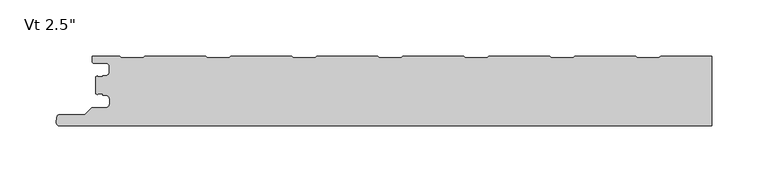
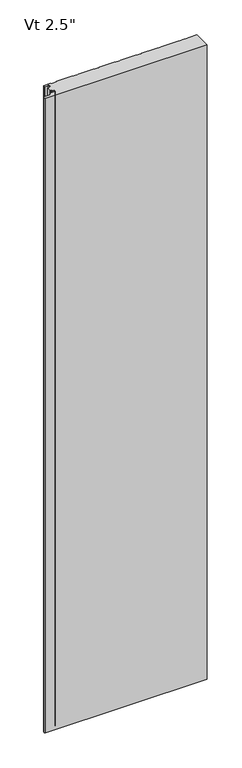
"""IFC4 building model written with IfcOpenShell, lengths in millimetres: plate geometry."""

import ifcopenshell
import ifcopenshell.guid

model = None  # the IFC model being written
_history = None  # IfcOwnerHistory: only IFC2X3 demands one
_inside = {}  # id of a spatial element -> (the spatial element, [elements in it])
_under = {}  # id of a project, library or spatial element -> (it, [spatial elements below it])
_declared = {}  # id of a project -> (the project, [libraries it declares])
_typed = {}  # id of a type object -> (the type object, [elements of that type])
_made_of = {}  # id of a material, layer set ... -> (it, [elements and type objects made of it])


def new_model(schema):
    """Start an empty IFC model of exactly this schema.

    Asked for "IFC4X3", IfcOpenShell would pick the latest addendum, in which some entities
    have other attributes; the version numbers below select the first issue.
    IFC2X3 requires an IfcOwnerHistory on every rooted entity: one is made here for all.
    """
    global model, _history
    if schema == "IFC4X3":
        model = ifcopenshell.file(schema_version=(4, 3, 0, 0))
    else:
        model = ifcopenshell.file(schema=schema)
    _inside.clear()
    _under.clear()
    _declared.clear()
    _typed.clear()
    _made_of.clear()
    _history = None
    if model.schema == "IFC2X3":
        org = make("IfcOrganization", Name="unknown")
        user = make(
            "IfcPersonAndOrganization",
            ThePerson=make("IfcPerson", FamilyName="unknown"),
            TheOrganization=org,
        )
        app = make(
            "IfcApplication",
            ApplicationDeveloper=org,
            Version="unknown",
            ApplicationFullName="unknown",
            ApplicationIdentifier="unknown",
        )
        _history = make(
            "IfcOwnerHistory",
            OwningUser=user,
            OwningApplication=app,
            ChangeAction="ADDED",
            CreationDate=0,
        )
    return model


def make(cls, **values):
    """One entity of the class cls with the attributes given. An attribute that is None is left unset."""
    return model.create_entity(
        cls, **{name: value for name, value in values.items() if value is not None}
    )


def rooted(cls, **values):
    """An entity with a GlobalId (a new one), such as an element, a storey or a relation."""
    return make(cls, GlobalId=ifcopenshell.guid.new(), OwnerHistory=_history, **values)


def si_unit(unit_type, name, prefix=None):
    """IfcSIUnit, for example si_unit("LENGTHUNIT", "METRE", prefix="MILLI")."""
    return make("IfcSIUnit", UnitType=unit_type, Prefix=prefix, Name=name)


def assignment(units):
    """IfcUnitAssignment: the units of a project."""
    return None if units is None else make("IfcUnitAssignment", Units=units)


def point(xyz):
    """IfcCartesianPoint."""
    return None if xyz is None else make("IfcCartesianPoint", Coordinates=xyz)


def direction(xyz):
    """IfcDirection."""
    return None if xyz is None else make("IfcDirection", DirectionRatios=xyz)


def frame(location, z_axis=None, x_axis=None):
    """IfcAxis2Placement3D, a coordinate frame: its origin and axes. An axis left out is left unset."""
    return make(
        "IfcAxis2Placement3D",
        Location=point(location),
        Axis=direction(z_axis),
        RefDirection=direction(x_axis),
    )


def origin():
    """The frame at (0, 0, 0) with its axes left unset."""
    return frame((0.0, 0.0, 0.0))


def place(relative_to, where):
    """IfcLocalPlacement: puts the frame where relative to a parent placement (None: the world)."""
    return make(
        "IfcLocalPlacement", PlacementRelTo=relative_to, RelativePlacement=where
    )


def context(
    kind, dimensions, precision=None, world=None, true_north=None, identifier=None
):
    """IfcGeometricRepresentationContext, for example the 3D "Model" context."""
    return make(
        "IfcGeometricRepresentationContext",
        ContextIdentifier=identifier,
        ContextType=kind,
        CoordinateSpaceDimension=dimensions,
        Precision=precision,
        WorldCoordinateSystem=world,
        TrueNorth=true_north,
    )


def project(units=None, contexts=None):
    """IfcProject with its units and contexts."""
    return rooted(
        "IfcProject",
        Name="project",
        RepresentationContexts=contexts,
        UnitsInContext=assignment(units),
    )


def spatial(cls, under=None, at=None, **own):
    """A site, building, storey or space (cls), placed at a placement, below another one or the project."""
    s = rooted(cls, ObjectPlacement=at, **own)
    if under is not None:
        _under.setdefault(under.id(), (under, []))[1].append(s)
    return s


def polyline(points):
    """IfcPolyline through the points."""
    return make("IfcPolyline", Points=[point(p) for p in points])


def circle_curve(where, radius):
    """IfcCircle in the frame where."""
    return make("IfcCircle", Position=where, Radius=radius)


def shape(context_of_items, identifier, shape_type, items):
    """IfcShapeRepresentation: the items that make up one representation, for example the "Body"."""
    return make(
        "IfcShapeRepresentation",
        ContextOfItems=context_of_items,
        RepresentationIdentifier=identifier,
        RepresentationType=shape_type,
        Items=items,
    )


def source(mapping_origin, context_of_items, identifier, shape_type, items):
    """IfcRepresentationMap: a shape defined once, which mapped items show again and again."""
    return make(
        "IfcRepresentationMap",
        MappingOrigin=mapping_origin,
        MappedRepresentation=shape(context_of_items, identifier, shape_type, items),
    )


def transform(
    local_origin,
    x_axis=None,
    y_axis=None,
    z_axis=None,
    scale=None,
    scale2=None,
    scale3=None,
    uniform=True,
):
    """IfcCartesianTransformationOperator3D, or its non-uniform kind. x_axis, y_axis, z_axis: its Axis1, 2, 3."""
    if uniform:
        return make(
            "IfcCartesianTransformationOperator3D",
            Axis1=direction(x_axis),
            Axis2=direction(y_axis),
            LocalOrigin=point(local_origin),
            Scale=scale,
            Axis3=direction(z_axis),
        )
    return make(
        "IfcCartesianTransformationOperator3DnonUniform",
        Axis1=direction(x_axis),
        Axis2=direction(y_axis),
        LocalOrigin=point(local_origin),
        Scale=scale,
        Axis3=direction(z_axis),
        Scale2=scale2,
        Scale3=scale3,
    )


def mapped(mapping_source, mapping_target):
    """IfcMappedItem: shows the shape of a source again, moved by a transform."""
    return make(
        "IfcMappedItem", MappingSource=mapping_source, MappingTarget=mapping_target
    )


def made_of(thing, what):
    """Note that an element or type object is made of a material, layer set ...; save() writes the relation."""
    if what is not None:
        _made_of.setdefault(what.id(), (what, []))[1].append(thing)
    return thing


def element(
    cls,
    number,
    at=None,
    inside=None,
    cuts=None,
    type_object=None,
    material=None,
    context=None,
    identifier="Body",
    shape_type=None,
    held_by="IfcProductDefinitionShape",
    body=None,
    shapes=None,
    **own,
):
    """One element of the class cls, such as IfcWall. Its Tag is "e" and its number.

    at: its placement. inside: the storey or other place that contains it. cuts: it is an
    opening in that element (IfcRelVoidsElement). A single representation is given by context,
    identifier, shape_type and body (its items); several are given by shapes. held_by: the class
    of the entity that holds the representations. save() writes the other relations.
    """
    e = rooted(cls, Tag="e%d" % number, ObjectPlacement=at, **own)
    if body is not None:
        shapes = [shape(context, identifier, shape_type, body)]
    if shapes is not None:
        e.Representation = make(held_by, Representations=shapes)
    if inside is not None:
        _inside.setdefault(inside.id(), (inside, []))[1].append(e)
    if cuts is not None:
        rooted(
            "IfcRelVoidsElement", RelatingBuildingElement=cuts, RelatedOpeningElement=e
        )
    if type_object is not None:
        _typed.setdefault(type_object.id(), (type_object, []))[1].append(e)
    return made_of(e, material)


def aggregate(whole, parts):
    """IfcRelAggregates: a whole, such as a stair, and the parts it consists of."""
    return rooted("IfcRelAggregates", RelatingObject=whole, RelatedObjects=parts)


def save(model, path):
    """Write the relations noted so far, then the file.

    IfcRelAggregates (storeys below a building ...), IfcRelContainedInSpatialStructure (elements
    in a storey), IfcRelDefinesByType, IfcRelAssociatesMaterial and IfcRelDeclares: one each for
    every whole, place, type object, material and project.
    """
    for whole, parts in _under.values():
        aggregate(whole, parts)
    for where, things in _inside.values():
        rooted(
            "IfcRelContainedInSpatialStructure",
            RelatedElements=things,
            RelatingStructure=where,
        )
    for kind, things in _typed.values():
        rooted("IfcRelDefinesByType", RelatedObjects=things, RelatingType=kind)
    for what, things in _made_of.values():
        rooted("IfcRelAssociatesMaterial", RelatedObjects=things, RelatingMaterial=what)
    for by, libraries in _declared.values():
        rooted("IfcRelDeclares", RelatingContext=by, RelatedDefinitions=libraries)
    model.write(path)


def plane_surface(at):
    """IfcPlane: the flat surface through the origin of the frame at, square to its z axis."""
    return make("IfcPlane", Position=at)


def cylinder_surface(at, radius):
    """IfcCylindricalSurface: all points at the distance radius from the z axis of the frame at."""
    return make("IfcCylindricalSurface", Position=at, Radius=radius)


def revolved_surface(curve, axis_point, axis_direction):
    """IfcSurfaceOfRevolution: the curve turned about the line through axis_point along axis_direction."""
    return make(
        "IfcSurfaceOfRevolution",
        SweptCurve=make("IfcArbitraryOpenProfileDef", ProfileType="CURVE", Curve=curve),
        AxisPosition=make("IfcAxis1Placement", Location=point(axis_point), Axis=direction(axis_direction)),
    )


def advanced_brep(points, edges, surfaces, faces):
    """IfcAdvancedBrep: a solid bounded by faces that lie on surfaces and meet in shared edges.

    An edge is (start, end): straight between two places in points (the first is 0);
    or (start, end, curve); or (start, end, curve, False) where it runs against its curve.
    A face is (place in surfaces, loops), or (place, loops, False) where it looks against
    its surface's normal. A loop lists edges by number (the first is 1), with a minus sign
    where the edge is run from its end to its start. The first loop is the outer one.
    """
    corners = [point(p) for p in points]
    vertices = [make("IfcVertexPoint", VertexGeometry=c) for c in corners]
    made = []
    for start, end, *more in edges:
        made.append(
            make(
                "IfcEdgeCurve",
                EdgeStart=vertices[start],
                EdgeEnd=vertices[end],
                EdgeGeometry=more[0] if more else make("IfcPolyline", Points=[corners[start], corners[end]]),
                SameSense=more[1] if len(more) > 1 else True,
            )
        )
    hull = []
    for where, loops, *sense in faces:
        bounds = []
        for j, loop in enumerate(loops):
            ring = [make("IfcOrientedEdge", EdgeElement=made[abs(k) - 1], Orientation=k > 0) for k in loop]
            bounds.append(
                make(
                    "IfcFaceOuterBound" if j == 0 else "IfcFaceBound",
                    Bound=make("IfcEdgeLoop", EdgeList=ring),
                    Orientation=True,
                )
            )
        hull.append(make("IfcAdvancedFace", Bounds=bounds, FaceSurface=surfaces[where], SameSense=sense[0] if sense else True))
    return make("IfcAdvancedBrep", Outer=make("IfcClosedShell", CfsFaces=hull))


def plate_b0eb5d18(model_context):
    return source(origin(), model_context, "Body", "AdvancedBrep", [
        advanced_brep(
        [(-271.7683, -35.170875, 2400.0), (-270.567176, -34.0014003, 2400.0), (-266.8087826, -34.0014003, 2400.0), (-266.8087826, -35.3998791, 2400.0), (-264.1096715, -35.3998791, 2400.0), (-260.7596762, -38.7498744, 2400.0), (-260.7596762, -43.1498656, 2400.0), (-264.1096715, -46.4998609, 2400.0), (-275.9205606, -46.4998609, 2400.0), (-277.1226383, -46.9977778, 2400.0), (-282.6247094, -52.4998489, 2400.0), (-304.7198391, -52.4998489, 2400.0), (-307.3765707, -54.7184509, 2400.0), (-307.8125697, -59.7002718, 2400.0), (-305.2521175, -62.4945967, 2400.0), (272.7999998, -62.5, 2400.0), (272.7999998, -1.0, 2400.0), (227.5795537, -1.0, 2400.0), (226.1939207, -2.2002307, 2400.0), (206.8187544, -2.2002307, 2400.0), (205.4331215, -1.0, 2400.0), (151.3797061, -1.0, 2400.0), (149.9940731, -2.2002307, 2400.0), (130.6189068, -2.2002307, 2400.0), (129.2332739, -1.0, 2400.0), (75.1798585, -1.0, 2400.0), (73.7942255, -2.2002307, 2400.0), (54.4190592, -2.2002307, 2400.0), (53.0334263, -1.0, 2400.0), (-1.0199891, -1.0, 2400.0), (-2.4056221, -2.2002307, 2400.0), (-21.7807884, -2.2002307, 2400.0), (-23.1664213, -1.0, 2400.0), (-77.2198367, -1.0, 2400.0), (-78.6054697, -2.2002307, 2400.0), (-97.980636, -2.2002307, 2400.0), (-99.3662689, -1.0, 2400.0), (-153.4196843, -1.0, 2400.0), (-154.8053173, -2.2002307, 2400.0), (-174.1804836, -2.2002307, 2400.0), (-175.5661165, -1.0, 2400.0), (-229.6195319, -1.0, 2400.0), (-231.0051649, -2.2002307, 2400.0), (-250.3803312, -2.2002307, 2400.0), (-251.7659738, -0.9999916, 2400.0), (-276.2662504, -0.9999916, 2400.0), (-276.2662504, -5.2315389, 2400.0), (-274.4962562, -7.0015331, 2400.0), (-264.0762777, -7.0015331, 2400.0), (-260.7762818, -10.301529, 2400.0), (-260.7762818, -14.7015202, 2400.0), (-264.0762775, -18.0015159, 2400.0), (-266.7684873, -18.0015159, 2400.0), (-266.7684873, -19.0015105, 2400.0), (-270.768691, -19.0015105, 2400.0), (-271.7686882, -18.0015192, 2400.0), (-272.7999998, -19.0328308, 2400.0), (-272.7999998, -34.1391751, 2400.0), (-271.7683, -35.170875, 0.0), (-272.7999998, -34.1391751, 0.0), (-272.7999998, -19.0328308, 0.0), (-271.7686882, -18.0015192, 0.0), (-270.768691, -19.0015105, 0.0), (-266.7684873, -19.0015105, 0.0), (-266.7684873, -18.0015159, 0.0), (-264.0762775, -18.0015159, 0.0), (-260.7762818, -14.7015202, 0.0), (-260.7762818, -10.301529, 0.0), (-264.0762777, -7.0015331, 0.0), (-274.4962562, -7.0015331, 0.0), (-276.2662504, -5.2315389, 0.0), (-276.2662504, -0.9999916, 0.0), (-251.7659738, -0.9999916, 0.0), (-250.3803312, -2.2002307, 0.0), (-231.0051649, -2.2002307, 0.0), (-229.6195319, -1.0, 0.0), (-175.5661165, -1.0, 0.0), (-174.1804836, -2.2002307, 0.0), (-154.8053173, -2.2002307, 0.0), (-153.4196843, -1.0, 0.0), (-99.3662689, -1.0, 0.0), (-97.980636, -2.2002307, 0.0), (-78.6054697, -2.2002307, 0.0), (-77.2198367, -1.0, 0.0), (-23.1664213, -1.0, 0.0), (-21.7807884, -2.2002307, 0.0), (-2.4056221, -2.2002307, 0.0), (-1.0199891, -1.0, 0.0), (53.0334263, -1.0, 0.0), (54.4190592, -2.2002307, 0.0), (73.7942255, -2.2002307, 0.0), (75.1798585, -1.0, 0.0), (129.2332739, -1.0, 0.0), (130.6189068, -2.2002307, 0.0), (149.9940731, -2.2002307, 0.0), (151.3797061, -1.0, 0.0), (205.4331215, -1.0, 0.0), (206.8187544, -2.2002307, 0.0), (226.1939207, -2.2002307, 0.0), (227.5795537, -1.0, 0.0), (272.7999998, -1.0, 0.0), (272.7999998, -62.5, 0.0), (-305.2521175, -62.5, 0.0), (-307.8125697, -59.7002718, 0.0), (-307.3765707, -54.7184509, 0.0), (-304.7198391, -52.4998489, 0.0), (-282.6247094, -52.4998489, 0.0), (-277.1226383, -46.9977778, 0.0), (-275.9205606, -46.4998609, 0.0), (-264.1096715, -46.4998609, 0.0), (-260.7596762, -43.1498656, 0.0), (-260.7596762, -38.7498744, 0.0), (-264.1096715, -35.3998791, 0.0), (-266.8087826, -35.3998791, 0.0), (-266.8087826, -34.0014003, 0.0), (-270.567176, -34.0014003, 0.0)],
        [
            (0, 1, circle_curve(frame((-270.5686906, -35.2013969, 2400.0), z_axis=(0.0, 0.0, -1.0), x_axis=(-1.0, 0.0, 0.0)), 1.1999976)),
            (1, 2),
            (2, 3),
            (3, 4),
            (4, 5, circle_curve(frame((-264.1096715, -38.7498744, 2400.0), z_axis=(0.0, 0.0, -1.0), x_axis=(-1.0, 0.0, 0.0)), 3.3499953)),
            (5, 6),
            (6, 7, circle_curve(frame((-264.1096715, -43.1498656, 2400.0), z_axis=(0.0, 0.0, -1.0), x_axis=(-1.0, 0.0, 0.0)), 3.3499953)),
            (7, 8),
            (8, 9, circle_curve(frame((-275.9205606, -48.1998555, 2400.0), z_axis=(0.0, 0.0, 1.0), x_axis=(-1.0, 0.0, 0.0)), 1.6999946)),
            (9, 10),
            (10, 11),
            (11, 12, circle_curve(frame((-304.7198391, -55.1998415, 2400.0), z_axis=(0.0, 0.0, 1.0), x_axis=(-1.0, 0.0, 0.0)), 2.6999926)),
            (12, 13),
            (13, 14, circle_curve(frame((-305.2521175, -59.9243575, 2400.0), z_axis=(0.0, 0.0, 1.0), x_axis=(-1.0, 0.0, 0.0)), 2.5702393)),
            (14, 15),
            (15, 16),
            (16, 17),
            (17, 18),
            (18, 19),
            (19, 20),
            (20, 21),
            (21, 22),
            (22, 23),
            (23, 24),
            (24, 25),
            (25, 26),
            (26, 27),
            (27, 28),
            (28, 29),
            (29, 30),
            (30, 31),
            (31, 32),
            (32, 33),
            (33, 34),
            (34, 35),
            (35, 36),
            (36, 37),
            (37, 38),
            (38, 39),
            (39, 40),
            (40, 41),
            (41, 42),
            (42, 43),
            (43, 44),
            (44, 45),
            (45, 46),
            (46, 47, circle_curve(frame((-274.4962562, -5.2315389, 2400.0), z_axis=(0.0, 0.0, 1.0), x_axis=(1.0, 0.0, 0.0)), 1.7699942)),
            (47, 48),
            (48, 49, circle_curve(frame((-264.0762777, -10.301529, 2400.0), z_axis=(0.0, 0.0, -1.0), x_axis=(1.0, 0.0, 0.0)), 3.2999959)),
            (49, 50),
            (50, 51, circle_curve(frame((-264.0762775, -14.7015202, 2400.0), z_axis=(0.0, 0.0, -1.0), x_axis=(1.0, 0.0, 0.0)), 3.2999957)),
            (51, 52),
            (52, 53),
            (53, 54),
            (54, 55, circle_curve(frame((-270.768691, -18.0015133, 2400.0), z_axis=(0.0, 0.0, -1.0), x_axis=(1.0, 0.0, 0.0)), 0.9999972)),
            (55, 56),
            (56, 57),
            (57, 0),
            (58, 59),
            (59, 60),
            (60, 61),
            (61, 62, circle_curve(frame((-270.768691, -18.0015133, 0.0), z_axis=(0.0, 0.0, 1.0), x_axis=(1.0, 0.0, 0.0)), 0.9999972)),
            (62, 63),
            (63, 64),
            (64, 65),
            (65, 66, circle_curve(frame((-264.0762775, -14.7015202, 0.0), z_axis=(0.0, 0.0, 1.0), x_axis=(1.0, 0.0, 0.0)), 3.2999957)),
            (66, 67),
            (67, 68, circle_curve(frame((-264.0762777, -10.301529, 0.0), z_axis=(0.0, 0.0, 1.0), x_axis=(1.0, 0.0, 0.0)), 3.2999959)),
            (68, 69),
            (69, 70, circle_curve(frame((-274.4962562, -5.2315389, 0.0), z_axis=(0.0, 0.0, -1.0), x_axis=(1.0, 0.0, 0.0)), 1.7699942)),
            (70, 71),
            (71, 72),
            (72, 73),
            (73, 74),
            (74, 75),
            (75, 76),
            (76, 77),
            (77, 78),
            (78, 79),
            (79, 80),
            (80, 81),
            (81, 82),
            (82, 83),
            (83, 84),
            (84, 85),
            (85, 86),
            (86, 87),
            (87, 88),
            (88, 89),
            (89, 90),
            (90, 91),
            (91, 92),
            (92, 93),
            (93, 94),
            (94, 95),
            (95, 96),
            (96, 97),
            (97, 98),
            (98, 99),
            (99, 100),
            (100, 101),
            (101, 102),
            (102, 103, circle_curve(frame((-305.2521175, -59.9243575, 0.0), z_axis=(0.0, 0.0, -1.0), x_axis=(-1.0, 0.0, 0.0)), 2.5702393)),
            (103, 104),
            (104, 105, circle_curve(frame((-304.7198391, -55.1998415, 0.0), z_axis=(0.0, 0.0, -1.0), x_axis=(-1.0, 0.0, 0.0)), 2.6999926)),
            (105, 106),
            (106, 107),
            (107, 108, circle_curve(frame((-275.9205606, -48.1998555, 0.0), z_axis=(0.0, 0.0, -1.0), x_axis=(-1.0, 0.0, 0.0)), 1.6999946)),
            (108, 109),
            (109, 110, circle_curve(frame((-264.1096715, -43.1498656, 0.0), z_axis=(0.0, 0.0, 1.0), x_axis=(-1.0, 0.0, 0.0)), 3.3499953)),
            (110, 111),
            (111, 112, circle_curve(frame((-264.1096715, -38.7498744, 0.0), z_axis=(0.0, 0.0, 1.0), x_axis=(-1.0, 0.0, 0.0)), 3.3499953)),
            (112, 113),
            (113, 114),
            (114, 115),
            (115, 58, circle_curve(frame((-270.5686906, -35.2013969, 0.0), z_axis=(0.0, 0.0, 1.0), x_axis=(-1.0, 0.0, 0.0)), 1.1999976)),
            (57, 59),
            (58, 0),
            (56, 60),
            (101, 15),
            (14, 102),
            (13, 103),
            (12, 104),
            (11, 105),
            (10, 106),
            (9, 107),
            (8, 108),
            (7, 109),
            (6, 110),
            (5, 111),
            (4, 112),
            (3, 113),
            (2, 114),
            (1, 115),
            (55, 61),
            (54, 62),
            (53, 63),
            (52, 64),
            (51, 65),
            (50, 66),
            (49, 67),
            (48, 68),
            (47, 69),
            (46, 70),
            (45, 71),
            (44, 72),
            (100, 16),
            (43, 73),
            (42, 74),
            (41, 75),
            (40, 76),
            (39, 77),
            (38, 78),
            (37, 79),
            (36, 80),
            (35, 81),
            (34, 82),
            (33, 83),
            (32, 84),
            (31, 85),
            (30, 86),
            (29, 87),
            (28, 88),
            (27, 89),
            (26, 90),
            (25, 91),
            (24, 92),
            (23, 93),
            (22, 94),
            (21, 95),
            (20, 96),
            (19, 97),
            (18, 98),
            (17, 99),
        ],
        [
            plane_surface(frame((184.4000002, -62.5, 2400.0), z_axis=(0.0, 0.0, 1.0), x_axis=(0.0, -1.0, 0.0))),
            plane_surface(frame((184.4000002, -62.5, 0.0), z_axis=(0.0, 0.0, -1.0), x_axis=(0.0, -1.0, 0.0))),
            plane_surface(frame((-271.7683, -35.170875, 2400.0), z_axis=(-0.707106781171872, -0.7071067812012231, 0.0), x_axis=(0.0, 0.0, -1.0))),
            plane_surface(frame((-272.7999998, -34.1391751, 2400.0), z_axis=(-1.0, 0.0, 0.0), x_axis=(0.0, 0.0, -1.0))),
            plane_surface(frame((593.1156221, -62.5, 2400.0), z_axis=(0.0, -1.0, 0.0), x_axis=(0.0, 0.0, -1.0))),
            cylinder_surface(frame((-305.2521175, -59.9243575, 2400.0), z_axis=(0.0, 0.0, 1.0), x_axis=(-1.0, 0.0, 0.0)), 2.5702393),
            plane_surface(frame((-307.8125697, -59.7002718, 2400.0), z_axis=(-0.9961921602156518, 0.08718474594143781, 0.0), x_axis=(0.0, 0.0, -1.0))),
            cylinder_surface(frame((-304.7198391, -55.1998415, 2400.0), z_axis=(0.0, 0.0, 1.0), x_axis=(-1.0, 0.0, 0.0)), 2.6999926),
            plane_surface(frame((-304.7198391, -52.4998489, 2400.0), z_axis=(0.0, 1.0, 0.0), x_axis=(0.0, 0.0, -1.0))),
            plane_surface(frame((-282.6247094, -52.4998489, 2400.0), z_axis=(-0.707106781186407, 0.7071067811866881, 0.0), x_axis=(0.0, 0.0, -1.0))),
            cylinder_surface(frame((-275.9205606, -48.1998555, 2400.0), z_axis=(0.0, 0.0, 1.0), x_axis=(-1.0, 0.0, 0.0)), 1.6999946),
            plane_surface(frame((-275.9205606, -46.4998609, 2400.0), z_axis=(0.0, 1.0, 0.0), x_axis=(0.0, 0.0, -1.0))),
            revolved_surface(polyline([(-267.4596668, -43.1498656, 0.0), (-267.4596668, -43.1498656, 2400.0)]), (-264.1096715, -43.1498656, 2400.0), (0.0, 0.0, -1.0)),
            plane_surface(frame((-260.7596762, -43.1498656, 2400.0), z_axis=(-1.0, 0.0, 0.0), x_axis=(0.0, 0.0, -1.0))),
            revolved_surface(polyline([(-267.4596668, -38.7498744, 0.0), (-267.4596668, -38.7498744, 2400.0)]), (-264.1096715, -38.7498744, 2400.0), (0.0, 0.0, -1.0)),
            plane_surface(frame((-264.1096715, -35.3998791, 2400.0), z_axis=(0.0, -1.0, 0.0), x_axis=(0.0, 0.0, -1.0))),
            plane_surface(frame((-266.8087826, -35.3998791, 2400.0), z_axis=(-1.0, 0.0, 0.0), x_axis=(0.0, 0.0, -1.0))),
            plane_surface(frame((-266.8087826, -34.0014003, 2400.0), z_axis=(0.0, -1.0, 0.0), x_axis=(0.0, 0.0, -1.0))),
            revolved_surface(polyline([(-271.76868820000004, -35.2013969, 0.0), (-271.76868820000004, -35.2013969, 2400.0)]), (-270.5686906, -35.2013969, 2400.0), (0.0, 0.0, -1.0)),
            plane_surface(frame((-272.7999998, -19.0328308, 2400.0), z_axis=(-0.7071067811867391, 0.707106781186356, 0.0), x_axis=(0.0, 0.0, -1.0))),
            revolved_surface(polyline([(-269.7686938, -18.0015133, 0.0), (-269.7686938, -18.0015133, 2400.0)]), (-270.768691, -18.0015133, 2400.0), (0.0, 0.0, -1.0)),
            plane_surface(frame((-270.768691, -19.0015105, 2400.0), z_axis=(0.0, 1.0, 0.0), x_axis=(0.0, 0.0, -1.0))),
            plane_surface(frame((-266.7684873, -19.0015105, 2400.0), z_axis=(-1.0, 0.0, 0.0), x_axis=(0.0, 0.0, -1.0))),
            plane_surface(frame((-266.7684873, -18.0015159, 2400.0), z_axis=(0.0, 1.0, 0.0), x_axis=(0.0, 0.0, -1.0))),
            revolved_surface(polyline([(-260.7762818, -14.7015202, 0.0), (-260.7762818, -14.7015202, 2400.0)]), (-264.0762775, -14.7015202, 2400.0), (0.0, 0.0, -1.0)),
            plane_surface(frame((-260.7762818, -14.7015202, 2400.0), z_axis=(-1.0, 0.0, 0.0), x_axis=(0.0, 0.0, -1.0))),
            revolved_surface(polyline([(-260.7762818, -10.301529, 0.0), (-260.7762818, -10.301529, 2400.0)]), (-264.0762777, -10.301529, 2400.0), (0.0, 0.0, -1.0)),
            plane_surface(frame((-264.0762777, -7.0015331, 2400.0), z_axis=(0.0, -1.0, 0.0), x_axis=(0.0, 0.0, -1.0))),
            cylinder_surface(frame((-274.4962562, -5.2315389, 2400.0), z_axis=(0.0, 0.0, 1.0), x_axis=(1.0, 0.0, 0.0)), 1.7699942),
            plane_surface(frame((-276.2662504, -5.2315389, 2400.0), z_axis=(-1.0, 0.0, 0.0), x_axis=(0.0, 0.0, -1.0))),
            plane_surface(frame((-276.2662504, -0.9999916, 2400.0), z_axis=(0.0, 1.0, 0.0), x_axis=(0.0, 0.0, -1.0))),
            plane_surface(frame((272.7999998, -73.5, 2400.0), z_axis=(1.0, 0.0, 0.0), x_axis=(0.0, 0.0, -1.0))),
            plane_surface(frame((-251.7659738, -0.9999916, 2400.0), z_axis=(0.6547276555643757, 0.7558648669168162, 0.0), x_axis=(0.0, 0.0, -1.0))),
            plane_surface(frame((-250.3803312, -2.2002307, 2400.0), z_axis=(0.0, 1.0, 0.0), x_axis=(0.0, 0.0, -1.0))),
            plane_surface(frame((-231.0051649, -2.2002307, 2400.0), z_axis=(-0.6547276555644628, 0.7558648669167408, 0.0), x_axis=(0.0, 0.0, -1.0))),
            plane_surface(frame((-229.6195319, -1.0, 2400.0), z_axis=(0.0, 1.0, 0.0), x_axis=(0.0, 0.0, -1.0))),
            plane_surface(frame((-175.5661165, -1.0, 2400.0), z_axis=(0.6547276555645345, 0.7558648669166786, 0.0), x_axis=(0.0, 0.0, -1.0))),
            plane_surface(frame((-174.1804836, -2.2002307, 2400.0), z_axis=(0.0, 1.0, 0.0), x_axis=(0.0, 0.0, -1.0))),
            plane_surface(frame((-154.8053173, -2.2002307, 2400.0), z_axis=(-0.654727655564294, 0.755864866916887, 0.0), x_axis=(0.0, 0.0, -1.0))),
            plane_surface(frame((-153.4196843, -1.0, 2400.0), z_axis=(0.0, 1.0, 0.0), x_axis=(0.0, 0.0, -1.0))),
            plane_surface(frame((-99.3662689, -1.0, 2400.0), z_axis=(0.6547276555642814, 0.7558648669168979, 0.0), x_axis=(0.0, 0.0, -1.0))),
            plane_surface(frame((-97.980636, -2.2002307, 2400.0), z_axis=(0.0, 1.0, 0.0), x_axis=(0.0, 0.0, -1.0))),
            plane_surface(frame((-78.6054697, -2.2002307, 2400.0), z_axis=(-0.6547276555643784, 0.7558648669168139, 0.0), x_axis=(0.0, 0.0, -1.0))),
            plane_surface(frame((-77.2198367, -1.0, 2400.0), z_axis=(0.0, 1.0, 0.0), x_axis=(0.0, 0.0, -1.0))),
            plane_surface(frame((-23.1664213, -1.0, 2400.0), z_axis=(0.6547276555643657, 0.7558648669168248, 0.0), x_axis=(0.0, 0.0, -1.0))),
            plane_surface(frame((-21.7807884, -2.2002307, 2400.0), z_axis=(0.0, 1.0, 0.0), x_axis=(0.0, 0.0, -1.0))),
            plane_surface(frame((-2.4056221, -2.2002307, 2400.0), z_axis=(-0.6547276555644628, 0.7558648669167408, 0.0), x_axis=(0.0, 0.0, -1.0))),
            plane_surface(frame((-1.0199891, -1.0, 2400.0), z_axis=(0.0, 1.0, 0.0), x_axis=(0.0, 0.0, -1.0))),
            plane_surface(frame((53.0334263, -1.0, 2400.0), z_axis=(0.6547276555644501, 0.7558648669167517, 0.0), x_axis=(0.0, 0.0, -1.0))),
            plane_surface(frame((54.4190592, -2.2002307, 2400.0), z_axis=(0.0, 1.0, 0.0), x_axis=(0.0, 0.0, -1.0))),
            plane_surface(frame((73.7942255, -2.2002307, 2400.0), z_axis=(-0.6547276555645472, 0.7558648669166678, 0.0), x_axis=(0.0, 0.0, -1.0))),
            plane_surface(frame((75.1798585, -1.0, 2400.0), z_axis=(0.0, 1.0, 0.0), x_axis=(0.0, 0.0, -1.0))),
            plane_surface(frame((129.2332739, -1.0, 2400.0), z_axis=(0.6547276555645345, 0.7558648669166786, 0.0), x_axis=(0.0, 0.0, -1.0))),
            plane_surface(frame((130.6189068, -2.2002307, 2400.0), z_axis=(0.0, 1.0, 0.0), x_axis=(0.0, 0.0, -1.0))),
            plane_surface(frame((149.9940731, -2.2002307, 2400.0), z_axis=(-0.6547276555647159, 0.7558648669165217, 0.0), x_axis=(0.0, 0.0, -1.0))),
            plane_surface(frame((151.3797061, -1.0, 2400.0), z_axis=(0.0, 1.0, 0.0), x_axis=(0.0, 0.0, -1.0))),
            plane_surface(frame((205.4331215, -1.0, 2400.0), z_axis=(0.6547276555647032, 0.7558648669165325, 0.0), x_axis=(0.0, 0.0, -1.0))),
            plane_surface(frame((206.8187544, -2.2002307, 2400.0), z_axis=(0.0, 1.0, 0.0), x_axis=(0.0, 0.0, -1.0))),
            plane_surface(frame((226.1939207, -2.2002307, 2400.0), z_axis=(-0.6547276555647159, 0.7558648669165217, 0.0), x_axis=(0.0, 0.0, -1.0))),
            plane_surface(frame((227.5795537, -1.0, 2400.0), z_axis=(0.0, 1.0, 0.0), x_axis=(0.0, 0.0, -1.0))),
        ],
        [
            (0, [[1, 2, 3, 4, 5, 6, 7, 8, 9, 10, 11, 12, 13, 14, 15, 16, 17, 18, 19, 20, 21, 22, 23, 24, 25, 26, 27, 28, 29, 30, 31, 32, 33, 34, 35, 36, 37, 38, 39, 40, 41, 42, 43, 44, 45, 46, 47, 48, 49, 50, 51, 52, 53, 54, 55, 56, 57, 58]]),
            (1, [[59, 60, 61, 62, 63, 64, 65, 66, 67, 68, 69, 70, 71, 72, 73, 74, 75, 76, 77, 78, 79, 80, 81, 82, 83, 84, 85, 86, 87, 88, 89, 90, 91, 92, 93, 94, 95, 96, 97, 98, 99, 100, 101, 102, 103, 104, 105, 106, 107, 108, 109, 110, 111, 112, 113, 114, 115, 116]]),
            (2, [[117, -59, 118, -58]]),
            (3, [[-57, 119, -60, -117]]),
            (4, [[-102, 120, -15, 121]]),
            (5, [[122, -103, -121, -14]]),
            (6, [[123, -104, -122, -13]]),
            (7, [[124, -105, -123, -12]]),
            (8, [[125, -106, -124, -11]]),
            (9, [[126, -107, -125, -10]]),
            (10, [[127, -108, -126, -9]]),
            (11, [[128, -109, -127, -8]]),
            (12, [[129, -110, -128, -7]]),
            (13, [[130, -111, -129, -6]]),
            (14, [[131, -112, -130, -5]]),
            (15, [[132, -113, -131, -4]]),
            (16, [[133, -114, -132, -3]]),
            (17, [[134, -115, -133, -2]]),
            (18, [[-118, -116, -134, -1]]),
            (19, [[135, -61, -119, -56]]),
            (20, [[136, -62, -135, -55]]),
            (21, [[137, -63, -136, -54]]),
            (22, [[138, -64, -137, -53]]),
            (23, [[139, -65, -138, -52]]),
            (24, [[140, -66, -139, -51]]),
            (25, [[141, -67, -140, -50]]),
            (26, [[142, -68, -141, -49]]),
            (27, [[143, -69, -142, -48]]),
            (28, [[144, -70, -143, -47]]),
            (29, [[145, -71, -144, -46]]),
            (30, [[146, -72, -145, -45]]),
            (31, [[-120, -101, 147, -16]]),
            (32, [[148, -73, -146, -44]]),
            (33, [[149, -74, -148, -43]]),
            (34, [[150, -75, -149, -42]]),
            (35, [[151, -76, -150, -41]]),
            (36, [[152, -77, -151, -40]]),
            (37, [[153, -78, -152, -39]]),
            (38, [[154, -79, -153, -38]]),
            (39, [[155, -80, -154, -37]]),
            (40, [[156, -81, -155, -36]]),
            (41, [[157, -82, -156, -35]]),
            (42, [[158, -83, -157, -34]]),
            (43, [[159, -84, -158, -33]]),
            (44, [[160, -85, -159, -32]]),
            (45, [[161, -86, -160, -31]]),
            (46, [[162, -87, -161, -30]]),
            (47, [[163, -88, -162, -29]]),
            (48, [[164, -89, -163, -28]]),
            (49, [[165, -90, -164, -27]]),
            (50, [[166, -91, -165, -26]]),
            (51, [[167, -92, -166, -25]]),
            (52, [[168, -93, -167, -24]]),
            (53, [[169, -94, -168, -23]]),
            (54, [[170, -95, -169, -22]]),
            (55, [[171, -96, -170, -21]]),
            (56, [[172, -97, -171, -20]]),
            (57, [[173, -98, -172, -19]]),
            (58, [[174, -99, -173, -18]]),
            (59, [[-17, -147, -100, -174]]),
        ],
    ),
    ])


if __name__ == "__main__":
    model = new_model("IFC4")
    model_context = context("Model", 3, world=origin())
    ifc_project = project(units=[si_unit("LENGTHUNIT", "METRE", prefix="MILLI")], contexts=[model_context])
    site = spatial("IfcSite", under=ifc_project)
    building = spatial("IfcBuilding", under=site)
    placement = place(None, origin())
    plate_shape = plate_b0eb5d18(model_context)
    element("IfcPlate", 1, ObjectType="KIP-36-Karrier-KP-R19-CP-Vt-FL3-8in_SL : Vt 2.5\"", at=placement, inside=building, context=model_context, shape_type="MappedRepresentation", body=[
        mapped(plate_shape, transform((0.0, 0.0, 0.0), x_axis=(1.0, 0.0, 0.0), y_axis=(0.0, 1.0, 0.0), z_axis=(0.0, 0.0, 1.0))),
    ])
    save(model, "model.ifc")
